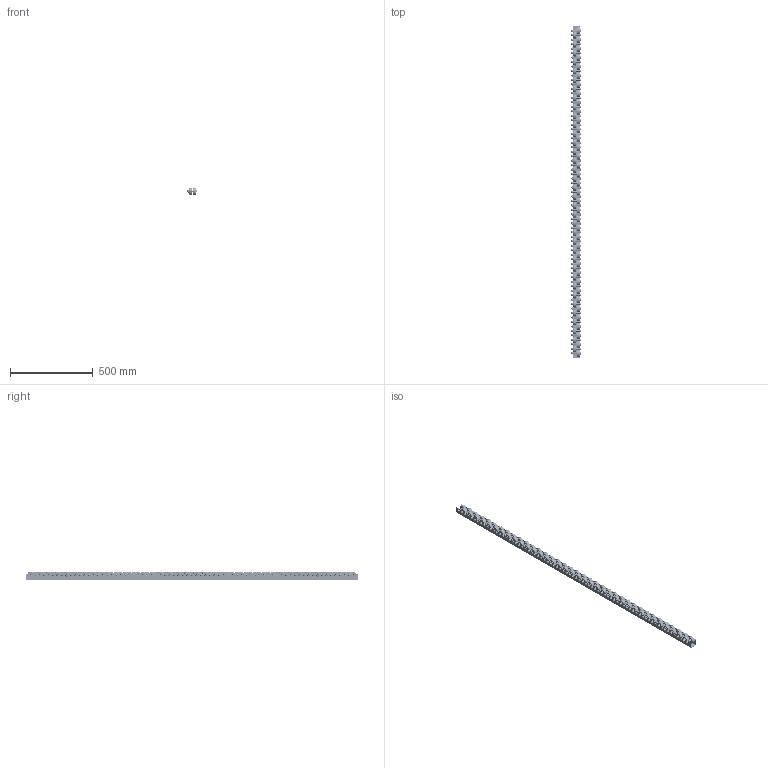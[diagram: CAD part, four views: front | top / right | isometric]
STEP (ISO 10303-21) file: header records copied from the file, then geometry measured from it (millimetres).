
FILE_DESCRIPTION( ( 'Unknown' ), '1' );
FILE_NAME( 'D:/Construktor/Listwy rolkowe 2015/Listwa T655/Listwa T655.stp', 'Unknown', ( 'Unknown' ), ( 'Unknown' ), 'PSStep 17.0.49', 'Unknown', ' ' );
FILE_SCHEMA( ( 'AUTOMOTIVE_DESIGN { 1 0 10303 214 1 1 1 1 }' ) );
Length unit declared in the file: millimetre
Products named in the file (10): Rolka T 610; Wewnetrzna Rolka 610; Zewnetrzna Rolka 610; Assem1; DIN_931_M8x35; DIN_931_M8x35-oa0; DIN_931_M8x35-oa1; DIN_931_M8x35-oa2; Nut_DIN_980_M_M8_v10.50; Ceownik T500
Assembly tree (222 placements, depth 3):
  Assem1
    DIN_931_M8x35  x70
    DIN_931_M8x35-oa0
    DIN_931_M8x35-oa1
    DIN_931_M8x35-oa2
    Nut_DIN_980_M_M8_v10.50  x73
    Ceownik T500
    Rolka T 610  x73
      Wewnetrzna Rolka 610
      Zewnetrzna Rolka 610
Bounding box: 60.3 x 2000 x 51.15 mm (x, y, z)
Volume: 2281674.7 mm3; surface area: 1412175.6 mm2
Topology: 293 solids, 293 shells, 7249 faces, 17442 edges, 11363 vertices
Faces by surface type: plane 4390, cylinder 1326, cone 1095, torus 438
Full cylindrical faces by diameter (mm): 6.466 x73, 6.647 x73, 6.697 x73, 8 x146, 8.2 x154, 8.3 x73, 8.4 x73, 11.63 x73, 12.5 x73, 14 x146, 23 x146, 28 x146, 42.3 x73
Entity records: 14850 total; most frequent: CARTESIAN_POINT 2213, DIRECTION 2156, ORIENTED_EDGE 1324, AXIS2_PLACEMENT_3D 1005, EDGE_LOOP 868, EDGE_CURVE 662, VERTEX_POINT 558, FACE_OUTER_BOUND 528
